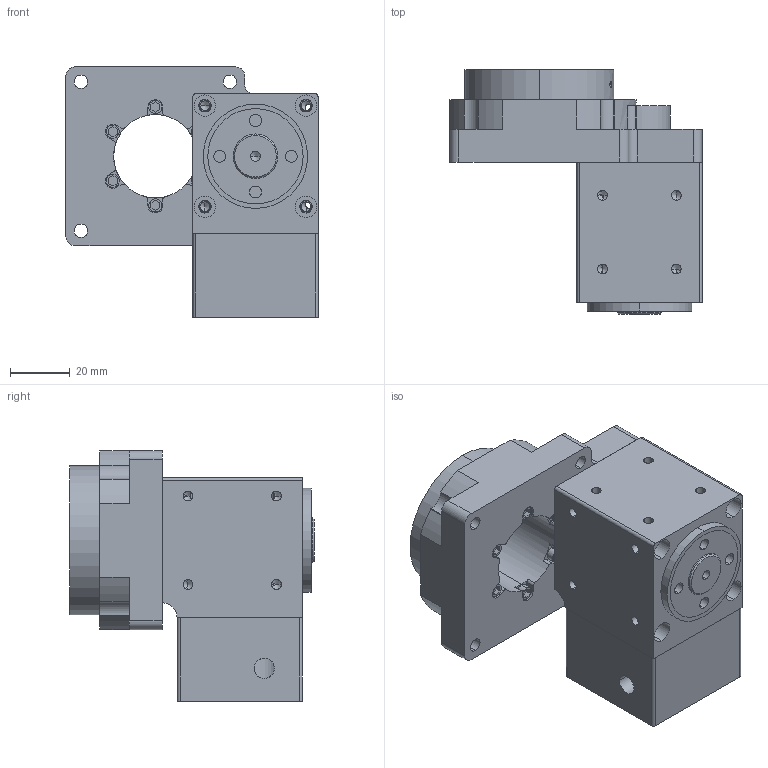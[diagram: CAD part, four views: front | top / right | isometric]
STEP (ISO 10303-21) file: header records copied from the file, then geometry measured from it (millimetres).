
FILE_DESCRIPTION (( 'STEP AP203' ), '1' );
FILE_NAME ('NTFA060-5K-8-30-45源砃衵.STEP', '2024-06-26T01:39:51', ( 'Windows User' ), ( 'P R C' ), 'SwSTEP 2.0', 'SolidWorks 2016', '' );
FILE_SCHEMA (( 'CONFIG_CONTROL_DESIGN' ));
Length unit declared in the file: millimetre
Products named in the file (16): PVFD040单轴（配伺服尺寸8-30-45-M3); 输入轴; NTFA060-5K-8-30-45源砃衵; 蹟譫; 蹟譫ㄗ2ㄘ; NONE_1; 標杶ㄗ1ㄘ; TS60-5K-100W-M3_1_ASM_1_ASM; 綴楊擘ㄗ侂狟100Wㄘ; TS60-5K-100W-M3_ASM_1_ASM; 6001_Rolling bearings 6001 GB 276-94; NTFA60-5Kƽ̨; 6002_Rolling bearings 6002 GB 276-94; 褲极; 61902_Rolling bearings 61902 GB 276-94; 怀堤粣ㄗ等粣ㄘ
Assembly tree (15 placements, depth 5):
  NTFA060-5K-8-30-45源砃衵
    NTFA60-5Kƽ̨
      TS60-5K-100W-M3_ASM_1_ASM
        TS60-5K-100W-M3_1_ASM_1_ASM
          NONE_1
    PVFD040单轴（配伺服尺寸8-30-45-M3)
      褲极
      怀堤粣ㄗ等粣ㄘ
      输入轴
      蹟譫
      蹟譫ㄗ2ㄘ
      標杶ㄗ1ㄘ
      綴楊擘ㄗ侂狟100Wㄘ
      6001_Rolling bearings 6001 GB 276-94
      6002_Rolling bearings 6002 GB 276-94
      61902_Rolling bearings 61902 GB 276-94
Bounding box: 84.6 x 82 x 84 mm (x, y, z)
Volume: 99812.7 mm3; surface area: 79807 mm2
Topology: 21 solids, 34 shells, 1637 faces, 5109 edges, 3239 vertices
Faces by surface type: plane 664, bspline 474, cylinder 401, cone 98
Entity records: 72546 total; most frequent: CARTESIAN_POINT 29430, ORIENTED_EDGE 9668, DIRECTION 7407, EDGE_CURVE 4847, VERTEX_POINT 3239, AXIS2_PLACEMENT_3D 2678, LINE 2051, VECTOR 2051
